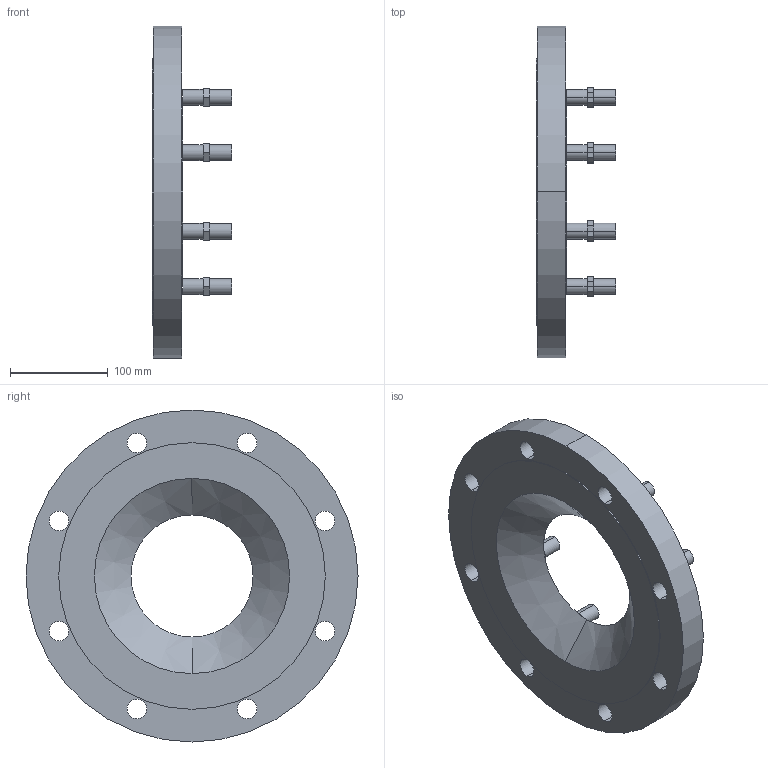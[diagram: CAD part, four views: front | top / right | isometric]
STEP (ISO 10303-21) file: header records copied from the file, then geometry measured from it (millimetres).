
FILE_DESCRIPTION(('STEP AP214'),'1');
FILE_NAME('S:/EK/USER/CAT6/3DHomepage_27-04-2012/VDI-Rohrsysteme_und_Stahlrohre/0802_(8110)/0802_PN10_DN200_DN125.STP','2013-01-25T08:11:39',(' '),(' '),'Spatial InterOp 3D',' ',' ');
FILE_SCHEMA(('automotive_design'));
Length unit declared in the file: millimetre
Products named in the file (18): 3D-Objekt
Bounding box: 81 x 340 x 340 mm (x, y, z)
Volume: 2088028 mm3; surface area: 285471.3 mm2
Topology: 18 solids, 18 shells, 127 faces, 270 edges, 180 vertices
Faces by surface type: plane 85, cylinder 40, cone 2
Entity records: 4900 total; most frequent: DIRECTION 644, CARTESIAN_POINT 595, ORIENTED_EDGE 540, EDGE_CURVE 270, AXIS2_PLACEMENT_3D 229, LINE 186, VECTOR 186, VERTEX_POINT 180
